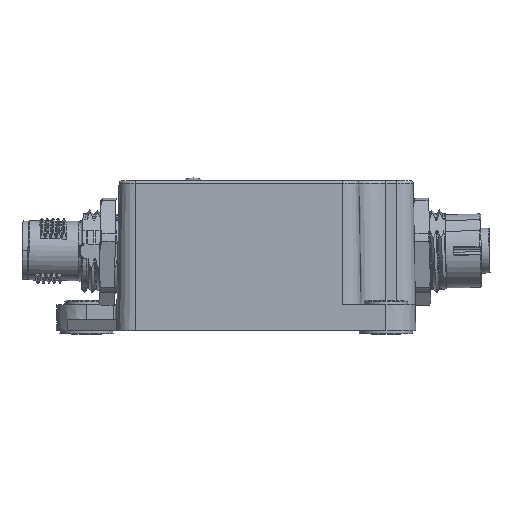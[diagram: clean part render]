
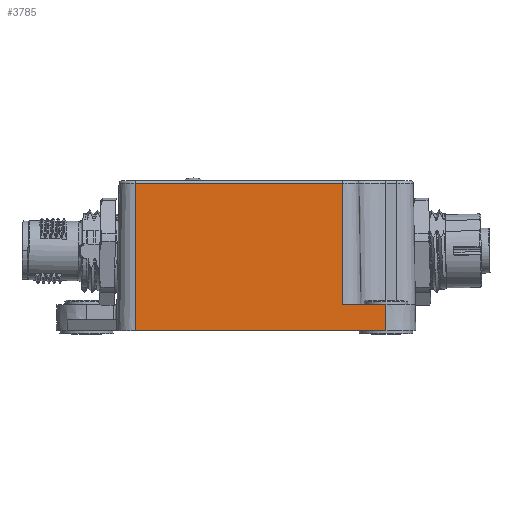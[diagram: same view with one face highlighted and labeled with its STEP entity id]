
A CAD part, front view. The second image highlights one B-rep face of the part: STEP entity #3785.
In plain terms, the highlighted planar face has unit normal (0, -1, 0.018).
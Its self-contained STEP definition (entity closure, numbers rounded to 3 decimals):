
#173 = PLANE ( 'NONE',  #697 ) ;
#697 = AXIS2_PLACEMENT_3D ( 'NONE', #39978, #43696, #18275 ) ;
#1282 = CARTESIAN_POINT ( 'NONE',  ( -23.612, -26.374, 80.06 ) ) ;
#1995 = VERTEX_POINT ( 'NONE', #22507 ) ;
#2113 = CARTESIAN_POINT ( 'NONE',  ( 22.388, -26.854, 52.56 ) ) ;
#3785 = ADVANCED_FACE ( 'NONE', ( #5044 ), #173, .T. ) ;
#5044 = FACE_OUTER_BOUND ( 'NONE', #7926, .T. ) ;
#6921 = VERTEX_POINT ( 'NONE', #11824 ) ;
#7053 = VECTOR ( 'NONE', #10678, 1000. ) ;
#7612 = CARTESIAN_POINT ( 'NONE',  ( 22.388, -26.77, 57.36 ) ) ;
#7926 = EDGE_LOOP ( 'NONE', ( #38023, #14412, #39248, #20486, #24789, #19421 ) ) ;
#9100 = EDGE_CURVE ( 'NONE', #47669, #1995, #22841, .T. ) ;
#9628 = DIRECTION ( 'NONE',  ( 0., 0.017, 1. ) ) ;
#9859 = EDGE_CURVE ( 'NONE', #12208, #41437, #50955, .T. ) ;
#10678 = DIRECTION ( 'NONE',  ( 0., -0.017, -1. ) ) ;
#11824 = CARTESIAN_POINT ( 'NONE',  ( -23.612, -26.854, 52.56 ) ) ;
#12208 = VERTEX_POINT ( 'NONE', #7612 ) ;
#12369 = LINE ( 'NONE', #34429, #27869 ) ;
#13641 = CARTESIAN_POINT ( 'NONE',  ( -23.612, -26.381, 79.667 ) ) ;
#13702 = DIRECTION ( 'NONE',  ( 0., -0.017, -1. ) ) ;
#14412 = ORIENTED_EDGE ( 'NONE', *, *, #21148, .T. ) ;
#14470 = VECTOR ( 'NONE', #40835, 1000. ) ;
#18275 = DIRECTION ( 'NONE',  ( 0., -0.017, -1. ) ) ;
#19421 = ORIENTED_EDGE ( 'NONE', *, *, #45918, .F. ) ;
#20486 = ORIENTED_EDGE ( 'NONE', *, *, #55261, .T. ) ;
#20680 = VECTOR ( 'NONE', #40483, 1000. ) ;
#21148 = EDGE_CURVE ( 'NONE', #1995, #21183, #36235, .T. ) ;
#21183 = VERTEX_POINT ( 'NONE', #44754 ) ;
#22507 = CARTESIAN_POINT ( 'NONE',  ( 14.388, -26.381, 79.667 ) ) ;
#22841 = LINE ( 'NONE', #31443, #24437 ) ;
#22844 = EDGE_CURVE ( 'NONE', #21183, #6921, #39965, .T. ) ;
#24437 = VECTOR ( 'NONE', #9628, 1000. ) ;
#24789 = ORIENTED_EDGE ( 'NONE', *, *, #9859, .F. ) ;
#27869 = VECTOR ( 'NONE', #39221, 1000. ) ;
#31443 = CARTESIAN_POINT ( 'NONE',  ( 14.388, -26.374, 80.06 ) ) ;
#34429 = CARTESIAN_POINT ( 'NONE',  ( 22.388, -26.854, 52.56 ) ) ;
#36235 = LINE ( 'NONE', #13641, #20680 ) ;
#38023 = ORIENTED_EDGE ( 'NONE', *, *, #9100, .T. ) ;
#39221 = DIRECTION ( 'NONE',  ( 1., 0., 0. ) ) ;
#39248 = ORIENTED_EDGE ( 'NONE', *, *, #22844, .T. ) ;
#39965 = LINE ( 'NONE', #1282, #48194 ) ;
#39978 = CARTESIAN_POINT ( 'NONE',  ( 22.388, -26.374, 80.06 ) ) ;
#40483 = DIRECTION ( 'NONE',  ( -1., 0., 0. ) ) ;
#40835 = DIRECTION ( 'NONE',  ( 1., 0., 0. ) ) ;
#41437 = VERTEX_POINT ( 'NONE', #2113 ) ;
#43696 = DIRECTION ( 'NONE',  ( 0., -1., 0.017 ) ) ;
#44754 = CARTESIAN_POINT ( 'NONE',  ( -23.612, -26.381, 79.667 ) ) ;
#44913 = CARTESIAN_POINT ( 'NONE',  ( 14.388, -26.77, 57.36 ) ) ;
#45918 = EDGE_CURVE ( 'NONE', #47669, #12208, #50550, .T. ) ;
#47669 = VERTEX_POINT ( 'NONE', #44913 ) ;
#48194 = VECTOR ( 'NONE', #13702, 1000. ) ;
#50127 = CARTESIAN_POINT ( 'NONE',  ( 22.388, -26.374, 80.06 ) ) ;
#50550 = LINE ( 'NONE', #54557, #14470 ) ;
#50955 = LINE ( 'NONE', #50127, #7053 ) ;
#54557 = CARTESIAN_POINT ( 'NONE',  ( 22.388, -26.77, 57.36 ) ) ;
#55261 = EDGE_CURVE ( 'NONE', #6921, #41437, #12369, .T. ) ;
